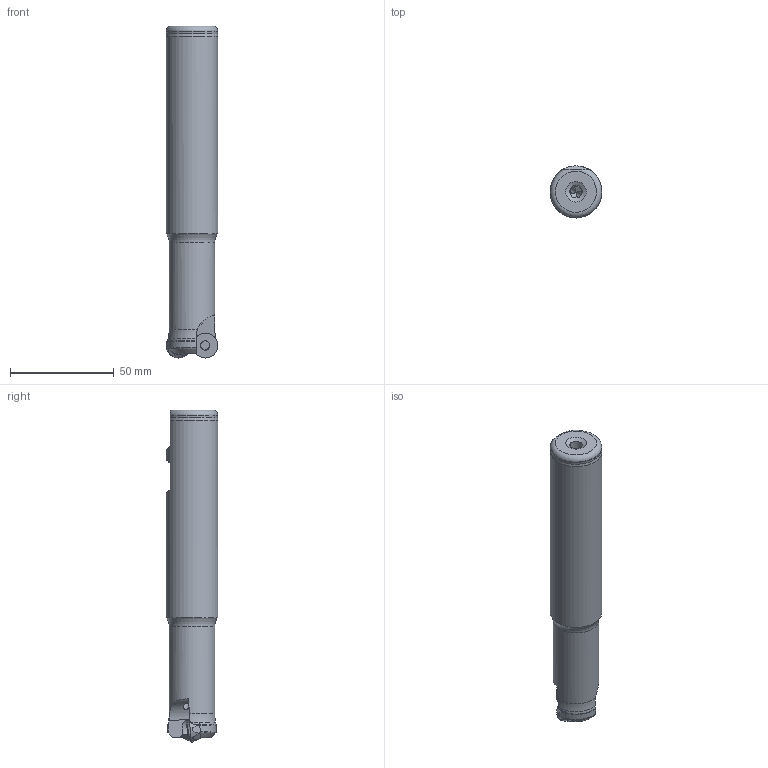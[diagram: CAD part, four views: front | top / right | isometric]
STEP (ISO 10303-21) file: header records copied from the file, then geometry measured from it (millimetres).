
FILE_DESCRIPTION(/* description */ (''),/* implementation_level */ '2;1');
FILE_NAME(/* name */ 'FMRS4025HRP-2S25-HAAS_211209.stp',/* time_stamp */ '2021-12-09T16:11:00+09:00',/* author */ (''),/* organization */ (''),/* preprocessor_version */ 'ST-DEVELOPER v16',/* originating_system */ 'SIEMENS PLM Software NX 10.0',/* authorisation */ '');
FILE_SCHEMA (('AUTOMOTIVE_DESIGN { 1 0 10303 214 3 1 1 1 }'));
Length unit declared in the file: millimetre
Products named in the file (1): user583C6A71u36z
Bounding box: 24.99 x 24.98 x 160 mm (x, y, z)
Volume: 64557.5 mm3; surface area: 16150.8 mm2
Topology: 3 solids, 3 shells, 98 faces, 326 edges, 230 vertices
Faces by surface type: plane 35, cylinder 30, torus 18, cone 15
Full cylindrical faces by diameter (mm): 3 x2, 4.5 x2, 6 x1, 22 x1, 25 x1
Entity records: 4685 total; most frequent: CARTESIAN_POINT 1653, ORIENTED_EDGE 596, DIRECTION 551, EDGE_CURVE 298, AXIS2_PLACEMENT_3D 242, VERTEX_POINT 218, EDGE_LOOP 115, CIRCLE 99
